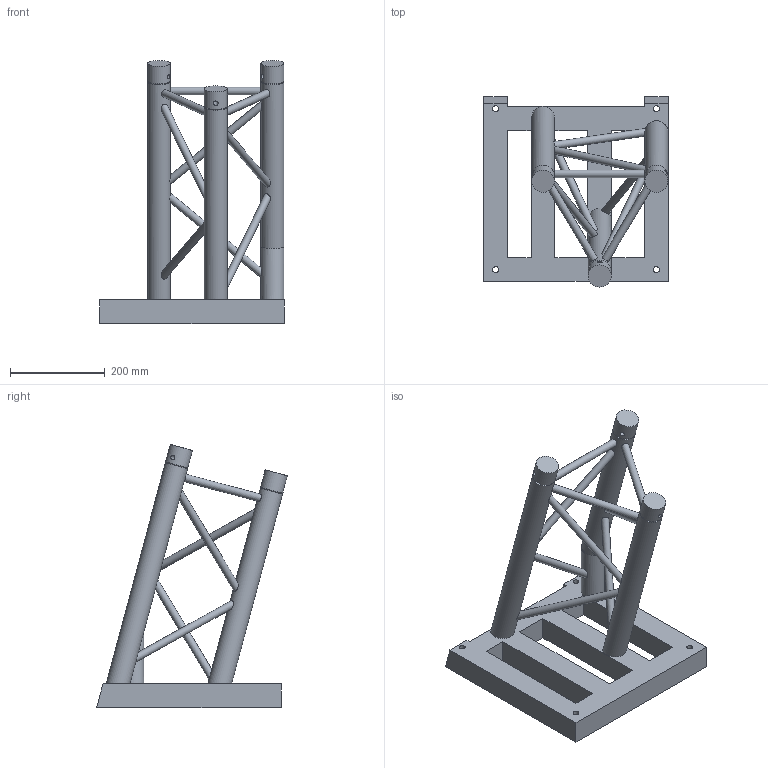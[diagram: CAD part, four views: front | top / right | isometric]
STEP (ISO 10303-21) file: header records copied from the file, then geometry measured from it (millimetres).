
FILE_DESCRIPTION(/* description */ (''),/* implementation_level */ '2;1');
FILE_NAME(/* name */ 'M:\Symbolen_NIEUW\STP\Boxcorner\211710002.stp',/* time_stamp */ '2015-06-08T14:37:04+02:00',/* author */ ('Sietse'),/* organization */ (''),/* preprocessor_version */ 'ST-DEVELOPER v15.6',/* originating_system */ 'Autodesk Inventor 2015',/* authorisation */ '');
FILE_SCHEMA (('AUTOMOTIVE_DESIGN { 1 0 10303 214 3 1 1 }'));
Length unit declared in the file: millimetre
Products named in the file (1): 160024395
Bounding box: 389 x 401.82 x 554.29 mm (x, y, z)
Volume: 7600557.7 mm3; surface area: 709703.6 mm2
Topology: 4 solids, 6 shells, 94 faces, 211 edges, 134 vertices
Faces by surface type: plane 57, cylinder 34, cone 3
Full cylindrical faces by diameter (mm): 10 x3, 12.5 x4, 16 x9, 48.3 x7
Entity records: 3146 total; most frequent: CARTESIAN_POINT 1048, DIRECTION 400, ORIENTED_EDGE 352, EDGE_CURVE 170, AXIS2_PLACEMENT_3D 166, EDGE_LOOP 156, VERTEX_POINT 122, STYLED_ITEM 88
